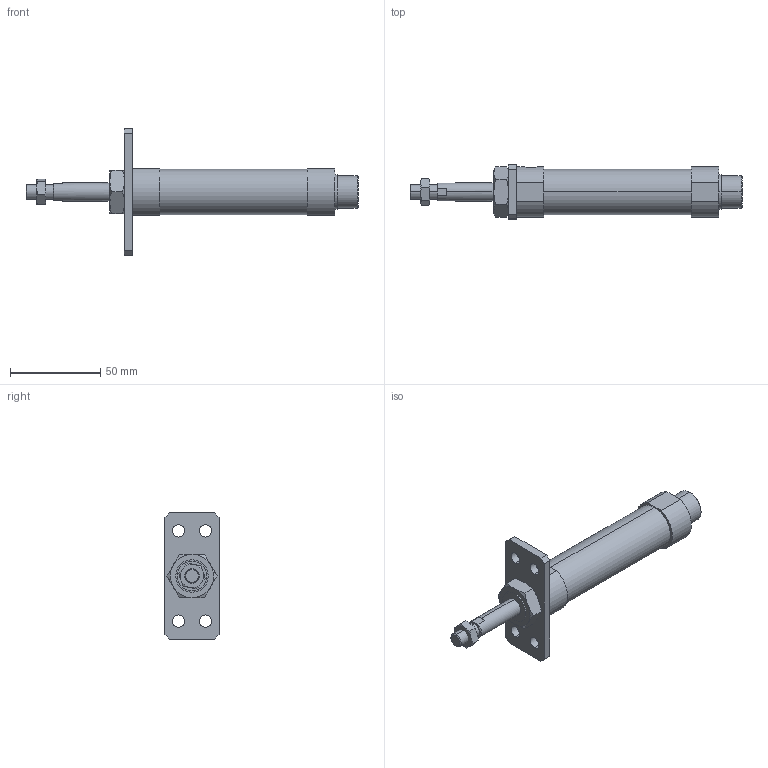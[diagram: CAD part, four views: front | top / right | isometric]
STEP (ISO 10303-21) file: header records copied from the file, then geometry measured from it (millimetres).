
FILE_DESCRIPTION (( 'STEP AP203' ), '1' );
FILE_NAME ('J#0-20-25-A.STEP', '2016-03-08T06:16:33', ( '' ), ( '' ), 'SwSTEP 2.0', 'SolidWorks 2014', '' );
FILE_SCHEMA (( 'CONFIG_CONTROL_DESIGN' ));
Length unit declared in the file: millimetre
Products named in the file (5): J#0-20-25-A; J#0-20-25; J#2-20-A
Assembly tree (4 placements, depth 2):
  J#0-20-25-A
    J#0-20-25
    (unnamed)
    (unnamed)
    J#2-20-A
Bounding box: 184 x 30 x 70 mm (x, y, z)
Volume: 77671.5 mm3; surface area: 20638.9 mm2
Topology: 4 solids, 4 shells, 109 faces, 246 edges, 154 vertices
Faces by surface type: plane 45, cylinder 34, torus 24, cone 6
Entity records: 3873 total; most frequent: CARTESIAN_POINT 906, DIRECTION 524, ORIENTED_EDGE 492, EDGE_CURVE 246, AXIS2_PLACEMENT_3D 216, VERTEX_POINT 154, EDGE_LOOP 132, ADVANCED_FACE 109
